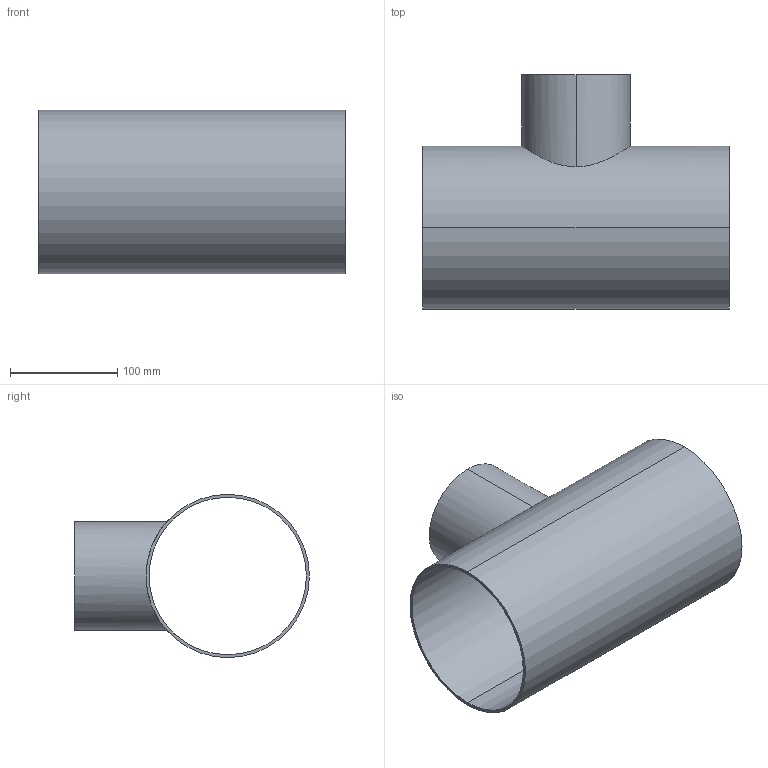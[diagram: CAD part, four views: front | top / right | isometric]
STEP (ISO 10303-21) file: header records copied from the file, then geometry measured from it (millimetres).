
FILE_DESCRIPTION (( 'STEP AP203' ), '1' );
FILE_NAME ('E7RWWW6.0X4.0.STEP', '2018-04-30T18:30:36', ( 'vneprd' ), ( 'Microsoft' ), 'SwSTEP 2.0', 'SolidWorks 2014', '' );
FILE_SCHEMA (( 'CONFIG_CONTROL_DESIGN' ));
Length unit declared in the file: inch
Products named in the file (1): E7RWWW6.0X4.0
Bounding box: 285.75 x 219.07 x 152.4 mm (x, y, z)
Volume: 399765.3 mm3; surface area: 303542.9 mm2
Topology: 1 solids, 1 shells, 11 faces, 24 edges, 16 vertices
Faces by surface type: cylinder 8, plane 3
Entity records: 687 total; most frequent: CARTESIAN_POINT 350, DIRECTION 56, ORIENTED_EDGE 48, EDGE_CURVE 24, AXIS2_PLACEMENT_3D 24, VERTEX_POINT 16, EDGE_LOOP 16, CIRCLE 12
